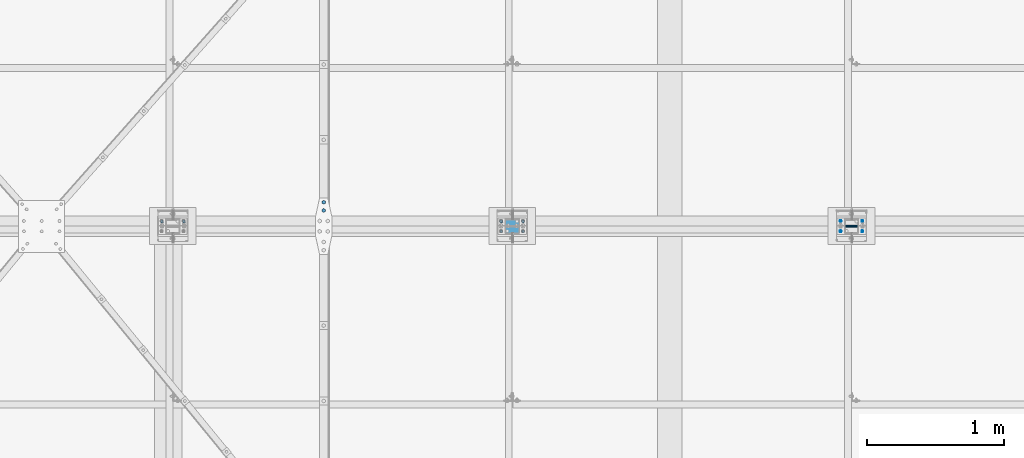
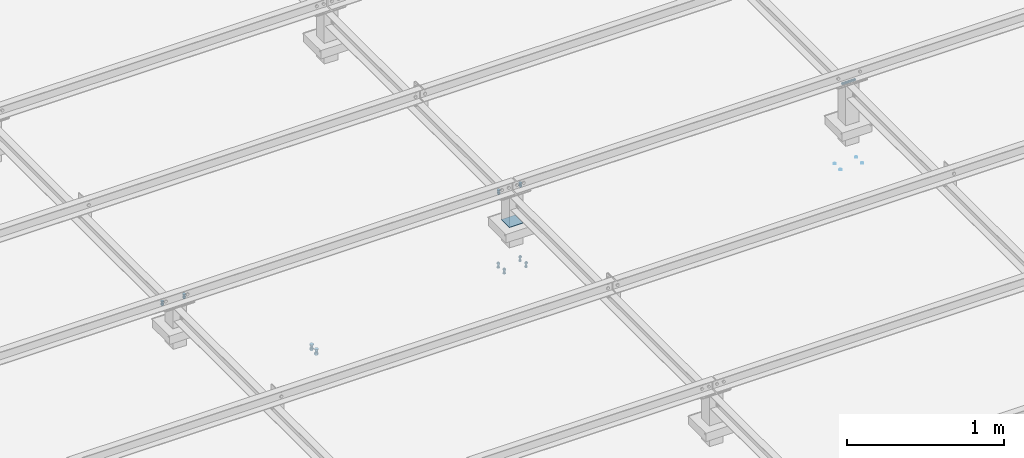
# One storey, part 328 of 3134: 7 mechanical fasteners, 7 elements without a shape of their own.
"""IFC2X3 building model written with IfcOpenShell, lengths in millimetres."""

from ifc_helpers import new_model, si_unit, frame, origin_with_axes, place, context, subcontext, project, spatial, faceted_brep, source, transform, mapped, material, type_object, element, aggregate, save


model = new_model("IFC2X3")

# Units and contexts
model_context = context("Model", 3, precision=1e-05, world=origin_with_axes())
body_context = subcontext(model_context, "Body", "Model", "MODEL_VIEW")
ifc_project = project(units=[si_unit("LENGTHUNIT", "METRE", prefix="MILLI"), si_unit("AREAUNIT", "SQUARE_METRE"), si_unit("VOLUMEUNIT", "CUBIC_METRE"), si_unit("MASSUNIT", "GRAM", prefix="KILO"), si_unit("TIMEUNIT", "SECOND"), si_unit("PLANEANGLEUNIT", "RADIAN"), si_unit("SOLIDANGLEUNIT", "STERADIAN"), si_unit("THERMODYNAMICTEMPERATUREUNIT", "DEGREE_CELSIUS"), si_unit("LUMINOUSINTENSITYUNIT", "LUMEN")], contexts=[model_context])

# Site, building, storey
site_placement = place(None, origin_with_axes())
site = spatial("IfcSite", under=ifc_project, at=site_placement, CompositionType="ELEMENT")
building_placement = place(site_placement, origin_with_axes())
building = spatial("IfcBuilding", under=site, at=building_placement, Name="Undefined", CompositionType="ELEMENT")
storey_placement = place(building_placement, origin_with_axes())
storey = spatial("IfcBuildingStorey", under=building, at=storey_placement, Name="Undefined", CompositionType="ELEMENT", Elevation=0.0)

# Assembly, mechanical fastener
assembly_1_placement = place(storey_placement, origin_with_axes())
assembly_1 = element("IfcElementAssembly", 1, at=assembly_1_placement, inside=storey, AssemblyPlace="NOTDEFINED", PredefinedType="RIGID_FRAME")
ifc_material_1 = material(Name="8.8")
mechanical_fastener_type = type_object("IfcMechanicalFastenerType", Name="Bolt assembly")
shared_shape_1 = source(origin_with_axes(), body_context, "Body", "Brep", [
    faceted_brep([(10.9696551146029, -14.0, 0.0), (5.48482755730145, -14.0, 9.5), (-5.48482755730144, -14.0, 9.5), (-10.9696551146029, -14.0, 1.34339530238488e-15), (-5.48482755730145, -14.0, -9.5), (5.48482755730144, -14.0, -9.50000000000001), (5.48482755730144, -6.0, -9.50000000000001), (-5.48482755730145, -6.0, -9.5), (-10.9696551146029, -6.0, 1.34339530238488e-15), (-5.48482755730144, -6.0, 9.5), (5.48482755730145, -6.0, 9.5), (10.9696551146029, -6.0, 0.0), (6.0, -6.0, 0.0), (5.19615242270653, -6.0, 3.00000000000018), (2.99999999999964, -6.0, 5.19615242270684), (-6.21801588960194e-13, -6.0, 6.0), (-3.00000000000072, -6.0, 5.19615242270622), (-5.19615242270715, -6.0, 2.9999999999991), (-6.0, -6.0, -1.24360317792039e-12), (-5.19615242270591, -6.0, -3.00000000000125), (-2.99999999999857, -6.0, -5.19615242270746), (1.85874342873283e-12, -6.0, -6.0), (3.00000000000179, -6.0, -5.1961524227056), (5.19615242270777, -6.0, -2.99999999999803), (5.19615242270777, 24.0, -2.99999999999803), (3.00000000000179, 24.0, -5.1961524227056), (1.85874342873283e-12, 24.0, -6.0), (-2.99999999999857, 24.0, -5.19615242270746), (-5.19615242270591, 24.0, -3.00000000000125), (-6.0, 24.0, -1.24360317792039e-12), (-5.19615242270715, 24.0, 2.9999999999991), (-3.00000000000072, 24.0, 5.19615242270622), (-6.21801588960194e-13, 24.0, 6.0), (2.99999999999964, 24.0, 5.19615242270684), (5.19615242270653, 24.0, 3.00000000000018), (6.0, 24.0, 0.0), (10.9696551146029, 6.00000000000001, 0.0), (5.48482755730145, 6.00000000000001, 9.5), (-5.48482755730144, 6.00000000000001, 9.5), (-10.9696551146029, 6.00000000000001, 1.34339530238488e-15), (-5.48482755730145, 6.00000000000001, -9.5), (5.48482755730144, 6.00000000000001, -9.50000000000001), (5.48482755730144, 16.0, -9.50000000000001), (-5.48482755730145, 16.0, -9.5), (-10.9696551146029, 16.0, 1.34339530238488e-15), (-5.48482755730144, 16.0, 9.5), (5.48482755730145, 16.0, 9.5), (10.9696551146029, 16.0, 0.0)], [[[0, 1, 2, 3, 4, 5]], [[6, 7, 8, 9, 10, 11]], [[0, 11, 10, 1]], [[1, 10, 9, 2]], [[2, 9, 8, 3]], [[3, 8, 7, 4]], [[4, 7, 6, 5]], [[5, 6, 11, 0]], [[12, 13, 14, 15, 16, 17, 18, 19, 20, 21, 22, 23]], [[24, 25, 26, 27, 28, 29, 30, 31, 32, 33, 34, 35]], [[12, 35, 34, 13]], [[13, 34, 33, 14]], [[14, 33, 32, 15]], [[15, 32, 31, 16]], [[16, 31, 30, 17]], [[17, 30, 29, 18]], [[18, 29, 28, 19]], [[19, 28, 27, 20]], [[20, 27, 26, 21]], [[21, 26, 25, 22]], [[22, 25, 24, 23]], [[23, 24, 35, 12]], [[36, 37, 38, 39, 40, 41]], [[42, 43, 44, 45, 46, 47]], [[36, 47, 46, 37]], [[37, 46, 45, 38]], [[38, 45, 44, 39]], [[39, 44, 43, 40]], [[40, 43, 42, 41]], [[41, 42, 47, 36]]]),
    faceted_brep([(7.0, -0.1, 0.0), (6.06217782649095, -0.1, 3.50000000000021), (3.49999999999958, -0.1, 6.06217782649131), (-7.25435187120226e-13, -0.1, 7.0), (-3.50000000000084, -0.1, 6.06217782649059), (-6.06217782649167, -0.1, 3.49999999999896), (-7.0, -0.1, -1.45087037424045e-12), (-6.06217782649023, -0.1, -3.50000000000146), (-3.49999999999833, -0.1, -6.06217782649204), (2.1685340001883e-12, -0.1, -7.0), (3.50000000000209, -0.1, -6.06217782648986), (6.0621778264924, -0.1, -3.4999999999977), (6.0621778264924, 6.00000000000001, -3.4999999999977), (3.50000000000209, 6.00000000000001, -6.06217782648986), (2.1685340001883e-12, 6.00000000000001, -7.0), (-3.49999999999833, 6.00000000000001, -6.06217782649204), (-6.06217782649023, 6.00000000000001, -3.50000000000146), (-7.0, 6.00000000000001, -1.45087037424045e-12), (-6.06217782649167, 6.00000000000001, 3.49999999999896), (-3.50000000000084, 6.00000000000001, 6.06217782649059), (-7.25435187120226e-13, 6.00000000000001, 7.0), (3.49999999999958, 6.00000000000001, 6.06217782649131), (6.06217782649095, 6.00000000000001, 3.50000000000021), (7.0, 6.00000000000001, 0.0), (7.0, -5.9, 0.0), (6.06217782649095, -5.9, 3.50000000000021), (3.49999999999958, -5.9, 6.06217782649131), (-7.25435187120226e-13, -5.9, 7.0), (-3.50000000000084, -5.9, 6.06217782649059), (-6.06217782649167, -5.9, 3.49999999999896), (-7.0, -5.9, -1.45087037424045e-12), (-6.06217782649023, -5.9, -3.50000000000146), (-3.49999999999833, -5.9, -6.06217782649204), (2.1685340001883e-12, -5.9, -7.0), (3.50000000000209, -5.9, -6.06217782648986), (6.0621778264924, -5.9, -3.4999999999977), (6.0621778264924, 0.0999999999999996, -3.4999999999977), (3.50000000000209, 0.0999999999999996, -6.06217782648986), (2.1685340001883e-12, 0.0999999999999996, -7.0), (-3.49999999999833, 0.0999999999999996, -6.06217782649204), (-6.06217782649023, 0.0999999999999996, -3.50000000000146), (-7.0, 0.0999999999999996, -1.45087037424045e-12), (-6.06217782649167, 0.0999999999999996, 3.49999999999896), (-3.50000000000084, 0.0999999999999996, 6.06217782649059), (-7.25435187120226e-13, 0.0999999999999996, 7.0), (3.49999999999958, 0.0999999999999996, 6.06217782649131), (6.06217782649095, 0.0999999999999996, 3.50000000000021), (7.0, 0.0999999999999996, 0.0)], [[[0, 1, 2, 3, 4, 5, 6, 7, 8, 9, 10, 11]], [[12, 13, 14, 15, 16, 17, 18, 19, 20, 21, 22, 23]], [[0, 23, 22, 1]], [[1, 22, 21, 2]], [[2, 21, 20, 3]], [[3, 20, 19, 4]], [[4, 19, 18, 5]], [[5, 18, 17, 6]], [[6, 17, 16, 7]], [[7, 16, 15, 8]], [[8, 15, 14, 9]], [[9, 14, 13, 10]], [[10, 13, 12, 11]], [[11, 12, 23, 0]], [[24, 25, 26, 27, 28, 29, 30, 31, 32, 33, 34, 35]], [[36, 37, 38, 39, 40, 41, 42, 43, 44, 45, 46, 47]], [[24, 47, 46, 25]], [[25, 46, 45, 26]], [[26, 45, 44, 27]], [[27, 44, 43, 28]], [[28, 43, 42, 29]], [[29, 42, 41, 30]], [[30, 41, 40, 31]], [[31, 40, 39, 32]], [[32, 39, 38, 33]], [[33, 38, 37, 34]], [[34, 37, 36, 35]], [[35, 36, 47, 24]]]),
])
mechanical_fastener_1_placement = place(assembly_1_placement, frame((70600.0, 7685.0, 5850.0), z_axis=(1.0, 0.0, 0.0), x_axis=(0.0, -1.0, 0.0)))
mechanical_fastener_1 = element("IfcMechanicalFastener", 2, at=mechanical_fastener_1_placement, type_object=mechanical_fastener_type, material=ifc_material_1, Name="Bolt assembly", NominalDiameter=12.0, NominalLength=30.0, context=body_context, shape_type="MappedRepresentation", body=[
    mapped(shared_shape_1, transform((0.0, -5.32963895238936e-10, -79.9999999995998))),
    mapped(shared_shape_1, transform((0.0, 5.3114490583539e-10, 79.9999999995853))),
])
aggregate(assembly_1, [mechanical_fastener_1])

assembly_2_placement = place(storey_placement, origin_with_axes())
assembly_2 = element("IfcElementAssembly", 3, at=assembly_2_placement, inside=storey, AssemblyPlace="NOTDEFINED", PredefinedType="RIGID_FRAME")
mechanical_fastener_2_placement = place(assembly_2_placement, frame((73075.0, 7685.0, 5850.0), z_axis=(1.0, 0.0, 0.0), x_axis=(0.0, -1.0, 0.0)))
mechanical_fastener_2 = element("IfcMechanicalFastener", 4, at=mechanical_fastener_2_placement, type_object=mechanical_fastener_type, material=ifc_material_1, Name="Bolt assembly", NominalDiameter=12.0, NominalLength=30.0, context=body_context, shape_type="MappedRepresentation", body=[
    mapped(shared_shape_1, transform((0.0, -5.32963895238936e-10, -79.9999999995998))),
    mapped(shared_shape_1, transform((0.0, 5.3114490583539e-10, 79.9999999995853))),
])
aggregate(assembly_2, [mechanical_fastener_2])

assembly_3_placement = place(storey_placement, origin_with_axes())
assembly_3 = element("IfcElementAssembly", 5, at=assembly_3_placement, inside=storey, AssemblyPlace="NOTDEFINED", PredefinedType="RIGID_FRAME")
shared_shape_2 = source(origin_with_axes(), body_context, "Body", "Brep", [
    faceted_brep([(7.0, 13.0000253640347, 0.0), (6.06217782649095, 13.0000253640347, 3.50000000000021), (3.49999999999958, 13.0000253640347, 6.06217782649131), (-7.25435187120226e-13, 13.0000253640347, 7.0), (-3.50000000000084, 13.0000253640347, 6.06217782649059), (-6.06217782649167, 13.0000253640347, 3.49999999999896), (-7.0, 13.0000253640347, -1.45087037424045e-12), (-6.06217782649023, 13.0000253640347, -3.50000000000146), (-3.49999999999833, 13.0000253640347, -6.06217782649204), (2.1685340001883e-12, 13.0000253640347, -7.0), (3.50000000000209, 13.0000253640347, -6.06217782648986), (6.0621778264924, 13.0000253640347, -3.4999999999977), (6.0621778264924, 15.0999999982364, -3.4999999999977), (3.50000000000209, 15.0999999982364, -6.06217782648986), (2.1685340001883e-12, 15.0999999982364, -7.0), (-3.49999999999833, 15.0999999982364, -6.06217782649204), (-6.06217782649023, 15.0999999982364, -3.50000000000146), (-7.0, 15.0999999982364, -1.45087037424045e-12), (-6.06217782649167, 15.0999999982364, 3.49999999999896), (-3.50000000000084, 15.0999999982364, 6.06217782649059), (-7.25435187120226e-13, 15.0999999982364, 7.0), (3.49999999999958, 15.0999999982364, 6.06217782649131), (6.06217782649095, 15.0999999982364, 3.50000000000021), (7.0, 15.0999999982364, 0.0)], [[[0, 1, 2, 3, 4, 5, 6, 7, 8, 9, 10, 11]], [[12, 13, 14, 15, 16, 17, 18, 19, 20, 21, 22, 23]], [[0, 23, 22, 1]], [[1, 22, 21, 2]], [[2, 21, 20, 3]], [[3, 20, 19, 4]], [[4, 19, 18, 5]], [[5, 18, 17, 6]], [[6, 17, 16, 7]], [[7, 16, 15, 8]], [[8, 15, 14, 9]], [[9, 14, 13, 10]], [[10, 13, 12, 11]], [[11, 12, 23, 0]]]),
])
mechanical_fastener_3_placement = place(assembly_3_placement, frame((75549.3451187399, 7688.0, 5179.0072055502), z_axis=(-0.99951962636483, 0.0, 0.0309922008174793), x_axis=(0.0, -1.0, 0.0)))
mechanical_fastener_3 = element("IfcMechanicalFastener", 6, at=mechanical_fastener_3_placement, type_object=mechanical_fastener_type, material=ifc_material_1, Name="Bolt assembly", NominalDiameter=12.0, NominalLength=2.0, context=body_context, shape_type="MappedRepresentation", body=[
    mapped(shared_shape_2, transform((0.0, -5.32963895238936e-10, -79.9999999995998))),
    mapped(shared_shape_2, transform((76.0, -5.32963895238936e-10, -79.9999999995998))),
    mapped(shared_shape_2, transform((0.0, 5.3114490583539e-10, 79.9999999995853))),
    mapped(shared_shape_2, transform((76.0, 5.3114490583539e-10, 79.9999999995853))),
])
aggregate(assembly_3, [mechanical_fastener_3])

assembly_4_placement = place(storey_placement, origin_with_axes())
assembly_4 = element("IfcElementAssembly", 7, at=assembly_4_placement, inside=storey, AssemblyPlace="NOTDEFINED", PredefinedType="RIGID_FRAME")
shared_shape_3 = source(origin_with_axes(), body_context, "Body", "Brep", [
    faceted_brep([(9.0, -50.0, 0.0), (7.79422863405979, -50.0, 4.50000000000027), (4.49999999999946, -50.0, 7.79422863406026), (-9.3270238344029e-13, -50.0, 9.0), (-4.50000000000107, -50.0, 7.79422863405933), (-7.79422863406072, -50.0, 4.49999999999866), (-9.0, -50.0, -1.86540476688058e-12), (-7.79422863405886, -50.0, -4.50000000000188), (-4.49999999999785, -50.0, -7.79422863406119), (2.78811514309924e-12, -50.0, -9.0), (4.50000000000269, -50.0, -7.7942286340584), (7.79422863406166, -50.0, -4.49999999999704), (7.79422863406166, 50.1, -4.49999999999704), (4.50000000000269, 50.1, -7.7942286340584), (2.78811514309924e-12, 50.1, -9.0), (-4.49999999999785, 50.1, -7.79422863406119), (-7.79422863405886, 50.1, -4.50000000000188), (-9.0, 50.1, -1.86540476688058e-12), (-7.79422863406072, 50.1, 4.49999999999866), (-4.50000000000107, 50.1, 7.79422863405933), (-9.3270238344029e-13, 50.1, 9.0), (4.49999999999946, 50.1, 7.79422863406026), (7.79422863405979, 50.1, 4.50000000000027), (9.0, 50.1, 0.0)], [[[0, 1, 2, 3, 4, 5, 6, 7, 8, 9, 10, 11]], [[12, 13, 14, 15, 16, 17, 18, 19, 20, 21, 22, 23]], [[0, 23, 22, 1]], [[1, 22, 21, 2]], [[2, 21, 20, 3]], [[3, 20, 19, 4]], [[4, 19, 18, 5]], [[5, 18, 17, 6]], [[6, 17, 16, 7]], [[7, 16, 15, 8]], [[8, 15, 14, 9]], [[9, 14, 13, 10]], [[10, 13, 12, 11]], [[11, 12, 23, 0]]]),
])
mechanical_fastener_4_placement = place(assembly_4_placement, frame((75550.0, 7650.0, 5830.0), z_axis=(0.0, 1.0, 0.0), x_axis=(0.0, 0.0, 1.0)))
mechanical_fastener_4 = element("IfcMechanicalFastener", 8, at=mechanical_fastener_4_placement, type_object=mechanical_fastener_type, material=ifc_material_1, Name="Bolt assembly", NominalDiameter=16.0, NominalLength=100.0, context=body_context, shape_type="MappedRepresentation", body=[
    mapped(shared_shape_3, transform((0.0, 0.0, 0.0))),
])
aggregate(assembly_4, [mechanical_fastener_4])

assembly_5_placement = place(storey_placement, origin_with_axes())
assembly_5 = element("IfcElementAssembly", 9, at=assembly_5_placement, inside=storey, AssemblyPlace="NOTDEFINED", PredefinedType="RIGID_FRAME")
ifc_material_2 = material(Name="6.8")
shared_shape_4 = source(origin_with_axes(), body_context, "Body", "Brep", [
    faceted_brep([(51.5, 1.36424205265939e-12, 50.0), (51.3858192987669, 1.36424205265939e-12, 50.5740251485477), (51.0606601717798, 1.36424205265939e-12, 51.0606601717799), (50.5740251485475, 1.36424205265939e-12, 51.385819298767), (-50.0000000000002, 1.36424205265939e-12, 51.5), (-50.7500000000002, 1.36424205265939e-12, 51.2990381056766), (-51.2990381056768, 1.36424205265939e-12, 50.7499999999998), (-51.5, 1.36424205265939e-12, 49.9999999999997), (-51.5, 1.36424205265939e-12, -50.0000000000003), (-51.2990381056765, 1.36424205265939e-12, -50.7500000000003), (-50.7499999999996, 1.36424205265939e-12, -51.2990381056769), (-49.9999999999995, 1.36424205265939e-12, -51.5), (50.0000000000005, 1.36424205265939e-12, -51.5), (50.7500000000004, 1.36424205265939e-12, -51.2990381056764), (51.2990381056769, 1.36424205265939e-12, -50.7499999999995), (51.5, 1.36424205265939e-12, -49.9999999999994), (51.5, 5.10000000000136, -49.9999999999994), (51.2990381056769, 5.10000000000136, -50.7499999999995), (50.7500000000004, 5.10000000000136, -51.2990381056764), (50.0000000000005, 5.10000000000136, -51.5), (-49.9999999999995, 5.10000000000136, -51.5), (-50.7499999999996, 5.10000000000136, -51.2990381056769), (-51.2990381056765, 5.10000000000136, -50.7500000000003), (-51.5, 5.10000000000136, -50.0000000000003), (-51.5, 5.10000000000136, 49.9999999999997), (-51.2990381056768, 5.10000000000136, 50.7499999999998), (-50.7500000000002, 5.10000000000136, 51.2990381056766), (-50.0000000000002, 5.10000000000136, 51.5), (50.5740251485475, 5.10000000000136, 51.385819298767), (51.0606601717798, 5.10000000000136, 51.0606601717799), (51.3858192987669, 5.10000000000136, 50.5740251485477), (51.5, 5.10000000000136, 50.0)], [[[0, 1, 2, 3, 4, 5, 6, 7, 8, 9, 10, 11, 12, 13, 14, 15]], [[16, 17, 18, 19, 20, 21, 22, 23, 24, 25, 26, 27, 28, 29, 30, 31]], [[0, 31, 30, 1]], [[1, 30, 29, 2]], [[2, 29, 28, 3]], [[3, 28, 27, 4]], [[4, 27, 26, 5]], [[5, 26, 25, 6]], [[6, 25, 24, 7]], [[7, 24, 23, 8]], [[8, 23, 22, 9]], [[9, 22, 21, 10]], [[10, 21, 20, 11]], [[11, 20, 19, 12]], [[12, 19, 18, 13]], [[13, 18, 17, 14]], [[14, 17, 16, 15]], [[15, 16, 31, 0]]]),
])
mechanical_fastener_5_placement = place(assembly_5_placement, frame((73075.0, 7650.0, 5610.44), z_axis=(0.0, -1.0, 0.0), x_axis=(-1.0, 0.0, 0.0)))
mechanical_fastener_5 = element("IfcMechanicalFastener", 10, at=mechanical_fastener_5_placement, type_object=mechanical_fastener_type, material=ifc_material_2, Name="Bolt assembly", NominalDiameter=10.0, NominalLength=5.0, context=body_context, shape_type="MappedRepresentation", body=[
    mapped(shared_shape_4, transform((0.0, 0.0, 0.0))),
])
aggregate(assembly_5, [mechanical_fastener_5])

assembly_6_placement = place(storey_placement, origin_with_axes())
assembly_6 = element("IfcElementAssembly", 11, at=assembly_6_placement, inside=storey, Name="300", AssemblyPlace="NOTDEFINED", PredefinedType="RIGID_FRAME")
shared_shape_5 = source(origin_with_axes(), body_context, "Body", "Brep", [
    faceted_brep([(10.9696551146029, -10.2005277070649, 0.0), (5.48482755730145, -10.2005277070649, 9.5), (-5.48482755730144, -10.2005277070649, 9.5), (-10.9696551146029, -10.2005277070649, 1.34339530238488e-15), (-5.48482755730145, -10.2005277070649, -9.5), (5.48482755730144, -10.2005277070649, -9.50000000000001), (5.48482755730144, -2.20052770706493, -9.50000000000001), (-5.48482755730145, -2.20052770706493, -9.5), (-10.9696551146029, -2.20052770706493, 1.34339530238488e-15), (-5.48482755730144, -2.20052770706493, 9.5), (5.48482755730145, -2.20052770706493, 9.5), (10.9696551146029, -2.20052770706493, 0.0), (6.0, -2.20052770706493, 0.0), (5.19615242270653, -2.20052770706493, 3.00000000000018), (2.99999999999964, -2.20052770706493, 5.19615242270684), (-6.21801588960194e-13, -2.20052770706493, 6.0), (-3.00000000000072, -2.20052770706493, 5.19615242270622), (-5.19615242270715, -2.20052770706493, 2.9999999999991), (-6.0, -2.20052770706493, -1.24360317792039e-12), (-5.19615242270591, -2.20052770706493, -3.00000000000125), (-2.99999999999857, -2.20052770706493, -5.19615242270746), (1.85874342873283e-12, -2.20052770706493, -6.0), (3.00000000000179, -2.20052770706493, -5.1961524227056), (5.19615242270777, -2.20052770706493, -2.99999999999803), (5.19615242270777, 32.7994722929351, -2.99999999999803), (3.00000000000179, 32.7994722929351, -5.1961524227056), (1.85874342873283e-12, 32.7994722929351, -6.0), (-2.99999999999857, 32.7994722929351, -5.19615242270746), (-5.19615242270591, 32.7994722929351, -3.00000000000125), (-6.0, 32.7994722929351, -1.24360317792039e-12), (-5.19615242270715, 32.7994722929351, 2.9999999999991), (-3.00000000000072, 32.7994722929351, 5.19615242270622), (-6.21801588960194e-13, 32.7994722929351, 6.0), (2.99999999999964, 32.7994722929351, 5.19615242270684), (5.19615242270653, 32.7994722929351, 3.00000000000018), (6.0, 32.7994722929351, 0.0), (10.9696551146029, 17.0008987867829, 0.0), (5.48482755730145, 17.0008987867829, 9.5), (-5.48482755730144, 17.0008987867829, 9.5), (-10.9696551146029, 17.0008987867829, 1.34339530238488e-15), (-5.48482755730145, 17.0008987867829, -9.5), (5.48482755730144, 17.0008987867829, -9.50000000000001), (5.48482755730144, 27.0008987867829, -9.50000000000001), (-5.48482755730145, 27.0008987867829, -9.5), (-10.9696551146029, 27.0008987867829, 1.34339530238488e-15), (-5.48482755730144, 27.0008987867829, 9.5), (5.48482755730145, 27.0008987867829, 9.5), (10.9696551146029, 27.0008987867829, 0.0)], [[[0, 1, 2, 3, 4, 5]], [[6, 7, 8, 9, 10, 11]], [[0, 11, 10, 1]], [[1, 10, 9, 2]], [[2, 9, 8, 3]], [[3, 8, 7, 4]], [[4, 7, 6, 5]], [[5, 6, 11, 0]], [[12, 13, 14, 15, 16, 17, 18, 19, 20, 21, 22, 23]], [[24, 25, 26, 27, 28, 29, 30, 31, 32, 33, 34, 35]], [[12, 35, 34, 13]], [[13, 34, 33, 14]], [[14, 33, 32, 15]], [[15, 32, 31, 16]], [[16, 31, 30, 17]], [[17, 30, 29, 18]], [[18, 29, 28, 19]], [[19, 28, 27, 20]], [[20, 27, 26, 21]], [[21, 26, 25, 22]], [[22, 25, 24, 23]], [[23, 24, 35, 12]], [[36, 37, 38, 39, 40, 41]], [[42, 43, 44, 45, 46, 47]], [[36, 47, 46, 37]], [[37, 46, 45, 38]], [[38, 45, 44, 39]], [[39, 44, 43, 40]], [[40, 43, 42, 41]], [[41, 42, 47, 36]]]),
    faceted_brep([(7.0, 8.90089878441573, 0.0), (6.06217782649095, 8.90089878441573, 3.50000000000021), (3.49999999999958, 8.90089878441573, 6.06217782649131), (-7.25435187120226e-13, 8.90089878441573, 7.0), (-3.50000000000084, 8.90089878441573, 6.06217782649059), (-6.06217782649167, 8.90089878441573, 3.49999999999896), (-7.0, 8.90089878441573, -1.45087037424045e-12), (-6.06217782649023, 8.90089878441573, -3.50000000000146), (-3.49999999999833, 8.90089878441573, -6.06217782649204), (2.1685340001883e-12, 8.90089878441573, -7.0), (3.50000000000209, 8.90089878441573, -6.06217782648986), (6.0621778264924, 8.90089878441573, -3.4999999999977), (6.0621778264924, 17.0008987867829, -3.4999999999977), (3.50000000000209, 17.0008987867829, -6.06217782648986), (2.1685340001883e-12, 17.0008987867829, -7.0), (-3.49999999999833, 17.0008987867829, -6.06217782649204), (-6.06217782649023, 17.0008987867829, -3.50000000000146), (-7.0, 17.0008987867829, -1.45087037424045e-12), (-6.06217782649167, 17.0008987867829, 3.49999999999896), (-3.50000000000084, 17.0008987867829, 6.06217782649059), (-7.25435187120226e-13, 17.0008987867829, 7.0), (3.49999999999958, 17.0008987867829, 6.06217782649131), (6.06217782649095, 17.0008987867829, 3.50000000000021), (7.0, 17.0008987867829, 0.0), (7.0, -2.10052770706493, 0.0), (6.06217782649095, -2.10052770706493, 3.50000000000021), (3.49999999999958, -2.10052770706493, 6.06217782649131), (-7.25435187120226e-13, -2.10052770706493, 7.0), (-3.50000000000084, -2.10052770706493, 6.06217782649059), (-6.06217782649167, -2.10052770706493, 3.49999999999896), (-7.0, -2.10052770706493, -1.45087037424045e-12), (-6.06217782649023, -2.10052770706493, -3.50000000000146), (-3.49999999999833, -2.10052770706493, -6.06217782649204), (2.1685340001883e-12, -2.10052770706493, -7.0), (3.50000000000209, -2.10052770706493, -6.06217782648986), (6.0621778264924, -2.10052770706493, -3.4999999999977), (6.0621778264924, 7.09947210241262, -3.4999999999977), (3.50000000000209, 7.09947210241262, -6.06217782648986), (2.1685340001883e-12, 7.09947210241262, -7.0), (-3.49999999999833, 7.09947210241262, -6.06217782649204), (-6.06217782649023, 7.09947210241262, -3.50000000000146), (-7.0, 7.09947210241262, -1.45087037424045e-12), (-6.06217782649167, 7.09947210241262, 3.49999999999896), (-3.50000000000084, 7.09947210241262, 6.06217782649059), (-7.25435187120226e-13, 7.09947210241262, 7.0), (3.49999999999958, 7.09947210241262, 6.06217782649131), (6.06217782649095, 7.09947210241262, 3.50000000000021), (7.0, 7.09947210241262, 0.0)], [[[0, 1, 2, 3, 4, 5, 6, 7, 8, 9, 10, 11]], [[12, 13, 14, 15, 16, 17, 18, 19, 20, 21, 22, 23]], [[0, 23, 22, 1]], [[1, 22, 21, 2]], [[2, 21, 20, 3]], [[3, 20, 19, 4]], [[4, 19, 18, 5]], [[5, 18, 17, 6]], [[6, 17, 16, 7]], [[7, 16, 15, 8]], [[8, 15, 14, 9]], [[9, 14, 13, 10]], [[10, 13, 12, 11]], [[11, 12, 23, 0]], [[24, 25, 26, 27, 28, 29, 30, 31, 32, 33, 34, 35]], [[36, 37, 38, 39, 40, 41, 42, 43, 44, 45, 46, 47]], [[24, 47, 46, 25]], [[25, 46, 45, 26]], [[26, 45, 44, 27]], [[27, 44, 43, 28]], [[28, 43, 42, 29]], [[29, 42, 41, 30]], [[30, 41, 40, 31]], [[31, 40, 39, 32]], [[32, 39, 38, 33]], [[33, 38, 37, 34]], [[34, 37, 36, 35]], [[35, 36, 47, 24]]]),
])
mechanical_fastener_6_placement = place(assembly_6_placement, frame((73074.5351187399, 7688.0, 5261.7372055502), z_axis=(-0.99951962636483, 0.0, 0.0309922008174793), x_axis=(0.0, -1.0, 0.0)))
mechanical_fastener_6 = element("IfcMechanicalFastener", 12, at=mechanical_fastener_6_placement, type_object=mechanical_fastener_type, material=ifc_material_1, Name="Bolt assembly", NominalDiameter=12.0, NominalLength=35.0, context=body_context, shape_type="MappedRepresentation", body=[
    mapped(shared_shape_5, transform((0.0, -5.32963895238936e-10, -79.9999999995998))),
    mapped(shared_shape_5, transform((76.0, -5.32963895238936e-10, -79.9999999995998))),
    mapped(shared_shape_5, transform((0.0, 5.3114490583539e-10, 79.9999999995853))),
    mapped(shared_shape_5, transform((76.0, 5.3114490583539e-10, 79.9999999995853))),
])
aggregate(assembly_6, [mechanical_fastener_6])

assembly_7_placement = place(storey_placement, origin_with_axes())
assembly_7 = element("IfcElementAssembly", 13, at=assembly_7_placement, inside=storey, AssemblyPlace="NOTDEFINED", PredefinedType="RIGID_FRAME")
shared_shape_6 = source(origin_with_axes(), body_context, "Body", "Brep", [
    faceted_brep([(13.856406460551, -21.0000017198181, 0.0), (6.92820323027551, -21.0000017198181, 12.0), (-6.92820323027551, -21.0000017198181, 12.0), (-13.856406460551, -21.0000017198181, 1.69692038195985e-15), (-6.92820323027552, -21.0000017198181, -12.0), (6.9282032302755, -21.0000017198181, -12.0), (6.9282032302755, -11.0000017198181, -12.0), (-6.92820323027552, -11.0000017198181, -12.0), (-13.856406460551, -11.0000017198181, 1.69692038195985e-15), (-6.92820323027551, -11.0000017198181, 12.0), (6.92820323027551, -11.0000017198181, 12.0), (13.856406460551, -11.0000017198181, 0.0), (8.0, -11.0000017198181, 0.0), (6.92820323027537, -11.0000017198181, 4.00000000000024), (3.99999999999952, -11.0000017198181, 6.92820323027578), (-8.29068785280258e-13, -11.0000017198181, 8.0), (-4.00000000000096, -11.0000017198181, 6.92820323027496), (-6.9282032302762, -11.0000017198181, 3.99999999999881), (-8.0, -11.0000017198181, -1.65813757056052e-12), (-6.92820323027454, -11.0000017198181, -4.00000000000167), (-3.99999999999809, -11.0000017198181, -6.92820323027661), (2.47832457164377e-12, -11.0000017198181, -8.0), (4.00000000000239, -11.0000017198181, -6.92820323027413), (6.92820323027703, -11.0000017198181, -3.99999999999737), (6.92820323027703, 29.0, -3.99999999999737), (4.00000000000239, 29.0, -6.92820323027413), (2.47832457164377e-12, 29.0, -8.0), (-3.99999999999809, 29.0, -6.92820323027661), (-6.92820323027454, 29.0, -4.00000000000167), (-8.0, 29.0, -1.65813757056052e-12), (-6.9282032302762, 29.0, 3.99999999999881), (-4.00000000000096, 29.0, 6.92820323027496), (-8.29068785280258e-13, 29.0, 8.0), (3.99999999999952, 29.0, 6.92820323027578), (6.92820323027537, 29.0, 4.00000000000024), (8.0, 29.0, 0.0), (13.856406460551, 10.9979999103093, 0.0), (6.92820323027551, 10.9979999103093, 12.0), (-6.92820323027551, 10.9979999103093, 12.0), (-13.856406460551, 10.9979999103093, 1.69692038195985e-15), (-6.92820323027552, 10.9979999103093, -12.0), (6.9282032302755, 10.9979999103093, -12.0), (6.9282032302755, 23.9979999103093, -12.0), (-6.92820323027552, 23.9979999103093, -12.0), (-13.856406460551, 23.9979999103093, 1.69692038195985e-15), (-6.92820323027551, 23.9979999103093, 12.0), (6.92820323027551, 23.9979999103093, 12.0), (13.856406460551, 23.9979999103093, 0.0)], [[[0, 1, 2, 3, 4, 5]], [[6, 7, 8, 9, 10, 11]], [[0, 11, 10, 1]], [[1, 10, 9, 2]], [[2, 9, 8, 3]], [[3, 8, 7, 4]], [[4, 7, 6, 5]], [[5, 6, 11, 0]], [[12, 13, 14, 15, 16, 17, 18, 19, 20, 21, 22, 23]], [[24, 25, 26, 27, 28, 29, 30, 31, 32, 33, 34, 35]], [[12, 35, 34, 13]], [[13, 34, 33, 14]], [[14, 33, 32, 15]], [[15, 32, 31, 16]], [[16, 31, 30, 17]], [[17, 30, 29, 18]], [[18, 29, 28, 19]], [[19, 28, 27, 20]], [[20, 27, 26, 21]], [[21, 26, 25, 22]], [[22, 25, 24, 23]], [[23, 24, 35, 12]], [[36, 37, 38, 39, 40, 41]], [[42, 43, 44, 45, 46, 47]], [[36, 47, 46, 37]], [[37, 46, 45, 38]], [[38, 45, 44, 39]], [[39, 44, 43, 40]], [[40, 43, 42, 41]], [[41, 42, 47, 36]]]),
    faceted_brep([(9.0, -10.9000017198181, 0.0), (7.79422863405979, -10.9000017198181, 4.50000000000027), (4.49999999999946, -10.9000017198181, 7.79422863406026), (-9.3270238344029e-13, -10.9000017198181, 9.0), (-4.50000000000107, -10.9000017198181, 7.79422863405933), (-7.79422863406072, -10.9000017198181, 4.49999999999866), (-9.0, -10.9000017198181, -1.86540476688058e-12), (-7.79422863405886, -10.9000017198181, -4.50000000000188), (-4.49999999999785, -10.9000017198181, -7.79422863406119), (2.78811514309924e-12, -10.9000017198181, -9.0), (4.50000000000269, -10.9000017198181, -7.7942286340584), (7.79422863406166, -10.9000017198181, -4.49999999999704), (7.79422863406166, -3.9, -4.49999999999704), (4.50000000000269, -3.9, -7.7942286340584), (2.78811514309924e-12, -3.9, -9.0), (-4.49999999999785, -3.9, -7.79422863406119), (-7.79422863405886, -3.9, -4.50000000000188), (-9.0, -3.9, -1.86540476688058e-12), (-7.79422863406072, -3.9, 4.49999999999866), (-4.50000000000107, -3.9, 7.79422863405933), (-9.3270238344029e-13, -3.9, 9.0), (4.49999999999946, -3.9, 7.79422863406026), (7.79422863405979, -3.9, 4.50000000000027), (9.0, -3.9, 0.0), (9.0, 3.89799991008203, 0.0), (7.79422863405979, 3.89799991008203, 4.50000000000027), (4.49999999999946, 3.89799991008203, 7.79422863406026), (-9.3270238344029e-13, 3.89799991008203, 9.0), (-4.50000000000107, 3.89799991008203, 7.79422863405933), (-7.79422863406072, 3.89799991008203, 4.49999999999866), (-9.0, 3.89799991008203, -1.86540476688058e-12), (-7.79422863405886, 3.89799991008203, -4.50000000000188), (-4.49999999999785, 3.89799991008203, -7.79422863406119), (2.78811514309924e-12, 3.89799991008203, -9.0), (4.50000000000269, 3.89799991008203, -7.7942286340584), (7.79422863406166, 3.89799991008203, -4.49999999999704), (7.79422863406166, 10.9979999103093, -4.49999999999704), (4.50000000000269, 10.9979999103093, -7.7942286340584), (2.78811514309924e-12, 10.9979999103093, -9.0), (-4.49999999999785, 10.9979999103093, -7.79422863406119), (-7.79422863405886, 10.9979999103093, -4.50000000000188), (-9.0, 10.9979999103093, -1.86540476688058e-12), (-7.79422863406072, 10.9979999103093, 4.49999999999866), (-4.50000000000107, 10.9979999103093, 7.79422863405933), (-9.3270238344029e-13, 10.9979999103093, 9.0), (4.49999999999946, 10.9979999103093, 7.79422863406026), (7.79422863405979, 10.9979999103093, 4.50000000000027), (9.0, 10.9979999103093, 0.0), (9.0, -3.99999624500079, 0.0), (7.79422863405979, -3.99999624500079, 4.50000000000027), (4.49999999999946, -3.99999624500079, 7.79422863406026), (-9.3270238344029e-13, -3.99999624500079, 9.0), (-4.50000000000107, -3.99999624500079, 7.79422863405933), (-7.79422863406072, -3.99999624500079, 4.49999999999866), (-9.0, -3.99999624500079, -1.86540476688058e-12), (-7.79422863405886, -3.99999624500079, -4.50000000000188), (-4.49999999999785, -3.99999624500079, -7.79422863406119), (2.78811514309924e-12, -3.99999624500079, -9.0), (4.50000000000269, -3.99999624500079, -7.7942286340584), (7.79422863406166, -3.99999624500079, -4.49999999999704), (7.79422863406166, 4.00000375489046, -4.49999999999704), (4.50000000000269, 4.00000375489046, -7.7942286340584), (2.78811514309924e-12, 4.00000375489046, -9.0), (-4.49999999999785, 4.00000375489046, -7.79422863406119), (-7.79422863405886, 4.00000375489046, -4.50000000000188), (-9.0, 4.00000375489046, -1.86540476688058e-12), (-7.79422863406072, 4.00000375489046, 4.49999999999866), (-4.50000000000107, 4.00000375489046, 7.79422863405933), (-9.3270238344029e-13, 4.00000375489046, 9.0), (4.49999999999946, 4.00000375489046, 7.79422863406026), (7.79422863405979, 4.00000375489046, 4.50000000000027), (9.0, 4.00000375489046, 0.0)], [[[0, 1, 2, 3, 4, 5, 6, 7, 8, 9, 10, 11]], [[12, 13, 14, 15, 16, 17, 18, 19, 20, 21, 22, 23]], [[0, 23, 22, 1]], [[1, 22, 21, 2]], [[2, 21, 20, 3]], [[3, 20, 19, 4]], [[4, 19, 18, 5]], [[5, 18, 17, 6]], [[6, 17, 16, 7]], [[7, 16, 15, 8]], [[8, 15, 14, 9]], [[9, 14, 13, 10]], [[10, 13, 12, 11]], [[11, 12, 23, 0]], [[24, 25, 26, 27, 28, 29, 30, 31, 32, 33, 34, 35]], [[36, 37, 38, 39, 40, 41, 42, 43, 44, 45, 46, 47]], [[24, 47, 46, 25]], [[25, 46, 45, 26]], [[26, 45, 44, 27]], [[27, 44, 43, 28]], [[28, 43, 42, 29]], [[29, 42, 41, 30]], [[30, 41, 40, 31]], [[31, 40, 39, 32]], [[32, 39, 38, 33]], [[33, 38, 37, 34]], [[34, 37, 36, 35]], [[35, 36, 47, 24]], [[48, 49, 50, 51, 52, 53, 54, 55, 56, 57, 58, 59]], [[60, 61, 62, 63, 64, 65, 66, 67, 68, 69, 70, 71]], [[48, 71, 70, 49]], [[49, 70, 69, 50]], [[50, 69, 68, 51]], [[51, 68, 67, 52]], [[52, 67, 66, 53]], [[53, 66, 65, 54]], [[54, 65, 64, 55]], [[55, 64, 63, 56]], [[56, 63, 62, 57]], [[57, 62, 61, 58]], [[58, 61, 60, 59]], [[59, 60, 71, 48]]]),
])
mechanical_fastener_7_placement = place(assembly_7_placement, frame((71700.0552171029, 7764.99999999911, 5010.20374994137), z_axis=(-0.999519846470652, 0.0, 0.0309851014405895), x_axis=(0.0, 1.0, 0.0)))
mechanical_fastener_7 = element("IfcMechanicalFastener", 14, at=mechanical_fastener_7_placement, type_object=mechanical_fastener_type, material=ifc_material_1, Name="Bolt assembly", NominalDiameter=16.0, NominalLength=40.0, context=body_context, shape_type="MappedRepresentation", body=[
    mapped(shared_shape_6, transform((0.0, 0.0, 0.0))),
    mapped(shared_shape_6, transform((59.9999999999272, 0.0, 5.40239852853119e-10))),
])
aggregate(assembly_7, [mechanical_fastener_7])

save(model, "model.ifc")
